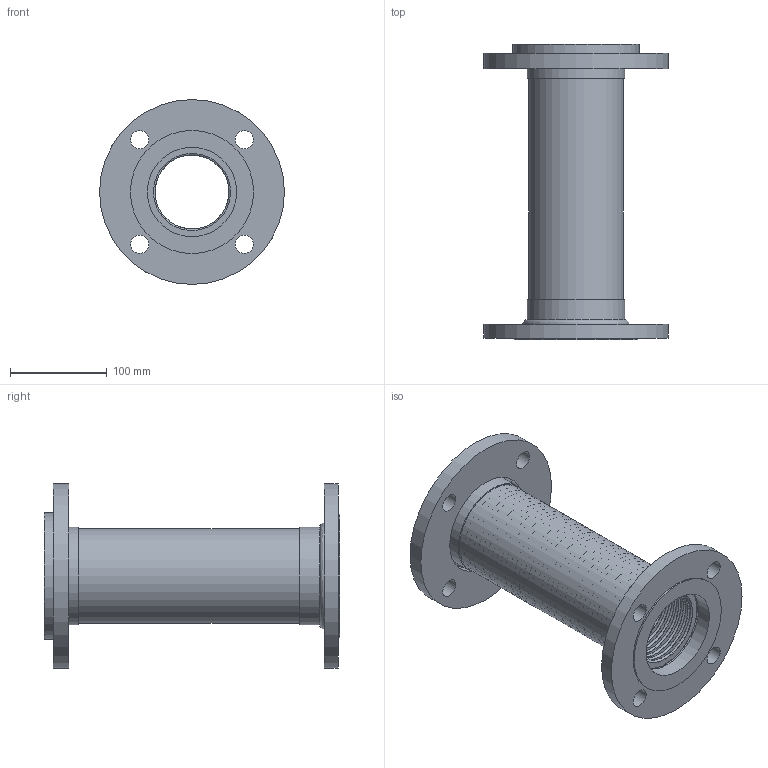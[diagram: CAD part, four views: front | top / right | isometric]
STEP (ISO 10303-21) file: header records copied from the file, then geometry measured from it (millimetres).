
FILE_DESCRIPTION((''),'2;1');
FILE_NAME('C:\2012_Work\Designs\FFLSS\3in_FFLSS_A-30359-3\FFLSS-3x12in.stp','2013-08-26T12:47:07',('KShiels'),(''),'Autodesk Inventor 2012','Autodesk Inventor 2012','');
FILE_SCHEMA(('AUTOMOTIVE_DESIGN { 1 0 10303 214 1 1 1 1 }'));
Length unit declared in the file: inch
Products named in the file (8): FFLSS-3x12in; FFLSS-3x12in_Welds; A-30359-3_3in_FFLSS-BRAID; A-30359-3_3in_FFLSS-BELLOWS; A-30359-3_3in_FFLSS-BRAID-COLLAR; A-30354-2_3in-FIXED-FLANGE; A-30355-1_3in-FLOATING-FLANGE; A-30356-2_3in-WASHER
Assembly tree (8 placements, depth 2):
  FFLSS-3x12in
    FFLSS-3x12in_Welds
    A-30359-3_3in_FFLSS-BRAID
    A-30359-3_3in_FFLSS-BELLOWS
    A-30359-3_3in_FFLSS-BRAID-COLLAR  x2
    A-30354-2_3in-FIXED-FLANGE
    A-30355-1_3in-FLOATING-FLANGE
    A-30356-2_3in-WASHER
Bounding box: 190.5 x 304.8 x 190.5 mm (x, y, z)
Volume: 831561 mm3; surface area: 894540.8 mm2
Topology: 9 solids, 9 shells, 381 faces, 602 edges, 406 vertices
Faces by surface type: plane 185, torus 170, cylinder 23, bspline 2, cone 1
Full cylindrical faces by diameter (mm): 19.05 x8, 92.075 x2, 97.028 x1, 97.841 x3, 100.222 x4, 106.363 x1, 127 x1, 130.175 x1, 190.5 x2
Entity records: 8562 total; most frequent: CARTESIAN_POINT 1761, DIRECTION 1544, ORIENTED_EDGE 782, AXIS2_PLACEMENT_3D 772, EDGE_LOOP 768, EDGE_CURVE 391, FACE_BOUND 391, VERTEX_POINT 389
